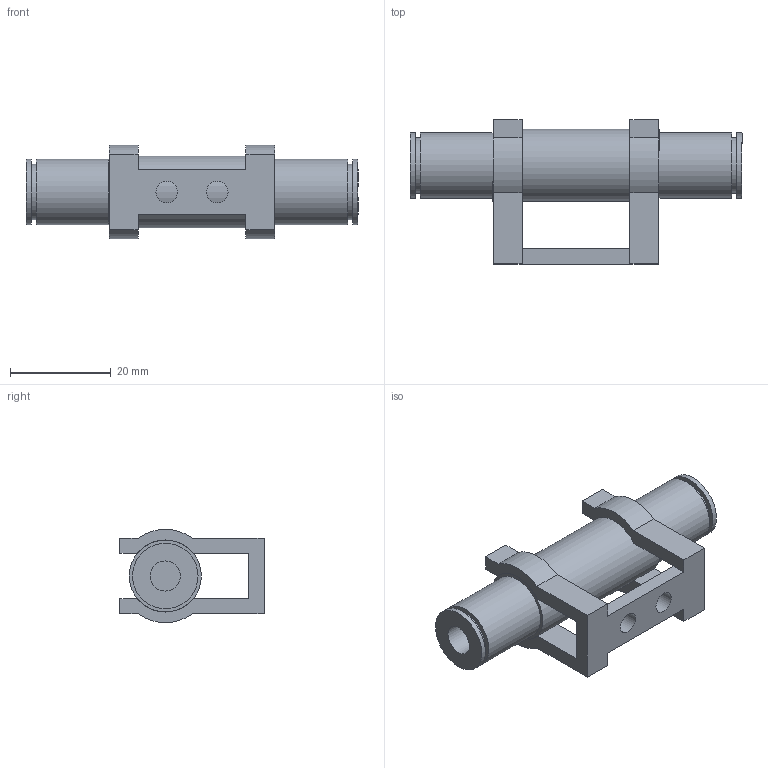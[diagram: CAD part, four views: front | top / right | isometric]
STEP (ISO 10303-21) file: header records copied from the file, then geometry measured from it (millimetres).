
FILE_DESCRIPTION(('STEP AP203'),'1');
FILE_NAME('BCVL-0506-C.stp','2025-07-18T00:59:14',(' '),(' '),'Spatial InterOp 3D',' ',' ');
FILE_SCHEMA(('CONFIG_CONTROL_DESIGN'));
Length unit declared in the file: millimetre
Products named in the file (1): 1
Bounding box: 65.9 x 28.6 x 18.5 mm (x, y, z)
Volume: 11204.4 mm3; surface area: 6197.2 mm2
Topology: 1 solids, 1 shells, 55 faces, 137 edges, 90 vertices
Faces by surface type: plane 40, cylinder 15
Full cylindrical faces by diameter (mm): 4.3 x2, 6 x2, 11 x2, 13 x4, 14.3 x1
Entity records: 1646 total; most frequent: DIRECTION 276, CARTESIAN_POINT 272, ORIENTED_EDGE 252, EDGE_CURVE 126, AXIS2_PLACEMENT_3D 94, VERTEX_POINT 90, LINE 88, VECTOR 88
